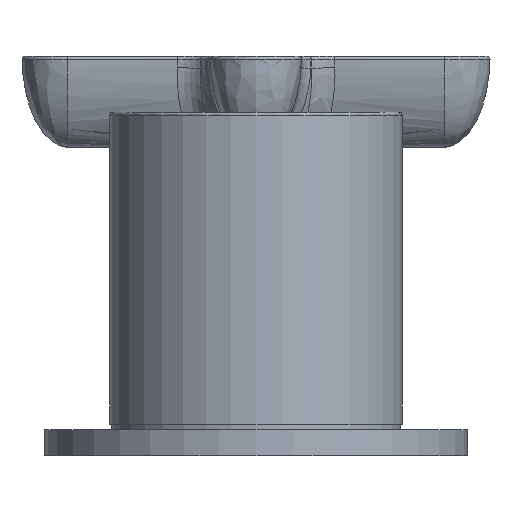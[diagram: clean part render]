
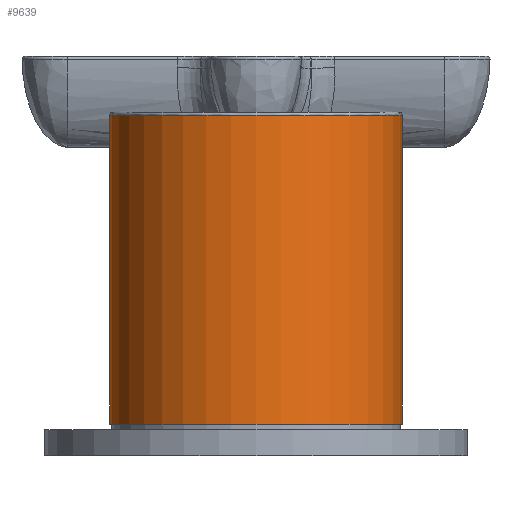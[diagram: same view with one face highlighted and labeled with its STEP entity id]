
A CAD part, front view. The second image highlights one B-rep face of the part: STEP entity #9639.
In plain terms, the highlighted cylindrical face has radius 22.5 mm (diameter 45 mm), a full revolution.
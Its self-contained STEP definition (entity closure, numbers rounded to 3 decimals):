
#9525=CARTESIAN_POINT('',(0.0,-22.5,4.9));
#9526=VERTEX_POINT('',#9525);
#9527=CARTESIAN_POINT('',(0.0,22.5,4.9));
#9528=VERTEX_POINT('',#9527);
#9529=CARTESIAN_POINT('',(0.0,0.0,4.9));
#9530=DIRECTION('',(0.0,0.0,1.0));
#9531=DIRECTION('',(0.0,-1.0,0.0));
#9532=AXIS2_PLACEMENT_3D('',#9529,#9530,#9531);
#9533=CIRCLE('',#9532,22.5);
#9534=EDGE_CURVE('',#9526,#9528,#9533,.T.);
#9536=CARTESIAN_POINT('',(0.0,0.0,4.9));
#9537=DIRECTION('',(0.0,0.0,1.0));
#9538=DIRECTION('',(0.0,-1.0,0.0));
#9539=AXIS2_PLACEMENT_3D('',#9536,#9537,#9538);
#9540=CIRCLE('',#9539,22.5);
#9541=EDGE_CURVE('',#9528,#9526,#9540,.T.);
#9546=CARTESIAN_POINT('',(0.0,0.0,52.9));
#9547=DIRECTION('',(0.0,0.0,-1.0));
#9548=DIRECTION('',(0.,1.0,0.0));
#9549=AXIS2_PLACEMENT_3D('',#9546,#9547,#9548);
#9550=CYLINDRICAL_SURFACE('',#9549,22.5);
#9551=ORIENTED_EDGE('',*,*,#9541,.T.);
#9552=ORIENTED_EDGE('',*,*,#9534,.T.);
#9553=CARTESIAN_POINT('',(0.,22.5,35.922));
#9554=VERTEX_POINT('',#9553);
#9555=CARTESIAN_POINT('',(0.,22.5,35.922));
#9556=DIRECTION('',(0.0,0.0,-1.0));
#9557=VECTOR('',#9556,31.022);
#9558=LINE('',#9555,#9557);
#9559=EDGE_CURVE('',#9554,#9528,#9558,.T.);
#9560=ORIENTED_EDGE('',*,*,#9559,.F.);
#9561=CARTESIAN_POINT('',(4.978,21.942,40.9));
#9562=VERTEX_POINT('',#9561);
#9563=CARTESIAN_POINT('',(0.,22.5,35.922));
#9564=CARTESIAN_POINT('',(0.33,22.5,35.922));
#9565=CARTESIAN_POINT('',(1.117,22.482,36.));
#9566=CARTESIAN_POINT('',(2.341,22.39,36.428));
#9567=CARTESIAN_POINT('',(3.375,22.251,37.173));
#9568=CARTESIAN_POINT('',(4.283,22.094,38.241));
#9569=CARTESIAN_POINT('',(4.776,21.988,39.304));
#9570=CARTESIAN_POINT('',(4.957,21.947,40.307));
#9571=CARTESIAN_POINT('',(4.978,21.942,40.731));
#9572=CARTESIAN_POINT('',(4.978,21.942,40.9));
#9573=B_SPLINE_CURVE_WITH_KNOTS('',3,(#9563,#9564,#9565,#9566,#9567,#9568,#9569,#9570,#9571,#9572),.UNSPECIFIED.,.F.,.U.,(4,1,1,1,1,1,1,4),(0.0,0.992,2.358,3.863,4.795,6.573,7.336,7.844),.UNSPECIFIED.);
#9574=EDGE_CURVE('',#9554,#9562,#9573,.T.);
#9575=ORIENTED_EDGE('',*,*,#9574,.T.);
#9576=CARTESIAN_POINT('',(0.,22.5,45.878));
#9577=VERTEX_POINT('',#9576);
#9578=CARTESIAN_POINT('',(4.978,21.942,40.9));
#9579=CARTESIAN_POINT('',(4.978,21.942,41.069));
#9580=CARTESIAN_POINT('',(4.957,21.947,41.493));
#9581=CARTESIAN_POINT('',(4.776,21.988,42.496));
#9582=CARTESIAN_POINT('',(4.283,22.094,43.559));
#9583=CARTESIAN_POINT('',(3.375,22.251,44.627));
#9584=CARTESIAN_POINT('',(2.341,22.39,45.372));
#9585=CARTESIAN_POINT('',(1.117,22.482,45.8));
#9586=CARTESIAN_POINT('',(0.33,22.5,45.878));
#9587=CARTESIAN_POINT('',(0.,22.5,45.878));
#9588=B_SPLINE_CURVE_WITH_KNOTS('',3,(#9578,#9579,#9580,#9581,#9582,#9583,#9584,#9585,#9586,#9587),.UNSPECIFIED.,.F.,.U.,(4,1,1,1,1,1,1,4),(0.0,0.508,1.271,3.049,3.981,5.487,6.852,7.844),.UNSPECIFIED.);
#9589=EDGE_CURVE('',#9562,#9577,#9588,.T.);
#9590=ORIENTED_EDGE('',*,*,#9589,.T.);
#9591=CARTESIAN_POINT('',(0.,22.5,52.4));
#9592=VERTEX_POINT('',#9591);
#9593=CARTESIAN_POINT('',(0.,22.5,52.4));
#9594=DIRECTION('',(0.0,0.0,-1.0));
#9595=VECTOR('',#9594,6.522);
#9596=LINE('',#9593,#9595);
#9597=EDGE_CURVE('',#9592,#9577,#9596,.T.);
#9598=ORIENTED_EDGE('',*,*,#9597,.F.);
#9599=CARTESIAN_POINT('',(0.0,-22.5,52.4));
#9600=VERTEX_POINT('',#9599);
#9601=CARTESIAN_POINT('',(0.0,0.0,52.4));
#9602=DIRECTION('',(0.0,0.0,-1.0));
#9603=DIRECTION('',(-1.0,0.0,0.0));
#9604=AXIS2_PLACEMENT_3D('',#9601,#9602,#9603);
#9605=CIRCLE('',#9604,22.5);
#9606=EDGE_CURVE('',#9592,#9600,#9605,.T.);
#9607=ORIENTED_EDGE('',*,*,#9606,.T.);
#9608=CARTESIAN_POINT('',(0.0,0.0,52.4));
#9609=DIRECTION('',(0.0,0.0,-1.0));
#9610=DIRECTION('',(-1.0,0.0,0.0));
#9611=AXIS2_PLACEMENT_3D('',#9608,#9609,#9610);
#9612=CIRCLE('',#9611,22.5);
#9613=EDGE_CURVE('',#9600,#9592,#9612,.T.);
#9614=ORIENTED_EDGE('',*,*,#9613,.T.);
#9615=ORIENTED_EDGE('',*,*,#9597,.T.);
#9616=CARTESIAN_POINT('',(0.,22.5,45.878));
#9617=CARTESIAN_POINT('',(-0.303,22.5,45.878));
#9618=CARTESIAN_POINT('',(-1.044,22.485,45.81));
#9619=CARTESIAN_POINT('',(-1.962,22.42,45.512));
#9620=CARTESIAN_POINT('',(-2.969,22.31,44.947));
#9621=CARTESIAN_POINT('',(-3.765,22.188,44.239));
#9622=CARTESIAN_POINT('',(-4.438,22.06,43.237));
#9623=CARTESIAN_POINT('',(-4.837,21.975,42.24));
#9624=CARTESIAN_POINT('',(-5.013,21.934,41.146));
#9625=CARTESIAN_POINT('',(-4.945,21.95,40.033));
#9626=CARTESIAN_POINT('',(-4.637,22.018,38.984));
#9627=CARTESIAN_POINT('',(-4.065,22.133,37.94));
#9628=CARTESIAN_POINT('',(-3.343,22.256,37.158));
#9629=CARTESIAN_POINT('',(-2.341,22.385,36.456));
#9630=CARTESIAN_POINT('',(-1.276,22.477,36.025));
#9631=CARTESIAN_POINT('',(-0.381,22.5,35.922));
#9632=CARTESIAN_POINT('',(0.,22.5,35.922));
#9633=B_SPLINE_CURVE_WITH_KNOTS('',3,(#9616,#9617,#9618,#9619,#9620,#9621,#9622,#9623,#9624,#9625,#9626,#9627,#9628,#9629,#9630,#9631,#9632),.UNSPECIFIED.,.F.,.U.,(4,1,1,1,1,1,1,1,1,1,1,1,1,1,4),(0.0,0.911,2.22,2.88,4.382,5.4,6.501,7.596,8.704,9.825,10.861,12.27,13.008,14.544,15.689),.UNSPECIFIED.);
#9634=EDGE_CURVE('',#9577,#9554,#9633,.T.);
#9635=ORIENTED_EDGE('',*,*,#9634,.T.);
#9636=ORIENTED_EDGE('',*,*,#9559,.T.);
#9637=EDGE_LOOP('',(#9551,#9552,#9560,#9575,#9590,#9598,#9607,#9614,#9615,#9635,#9636));
#9638=FACE_OUTER_BOUND('',#9637,.T.);
#9639=ADVANCED_FACE('',(#9638),#9550,.T.);
